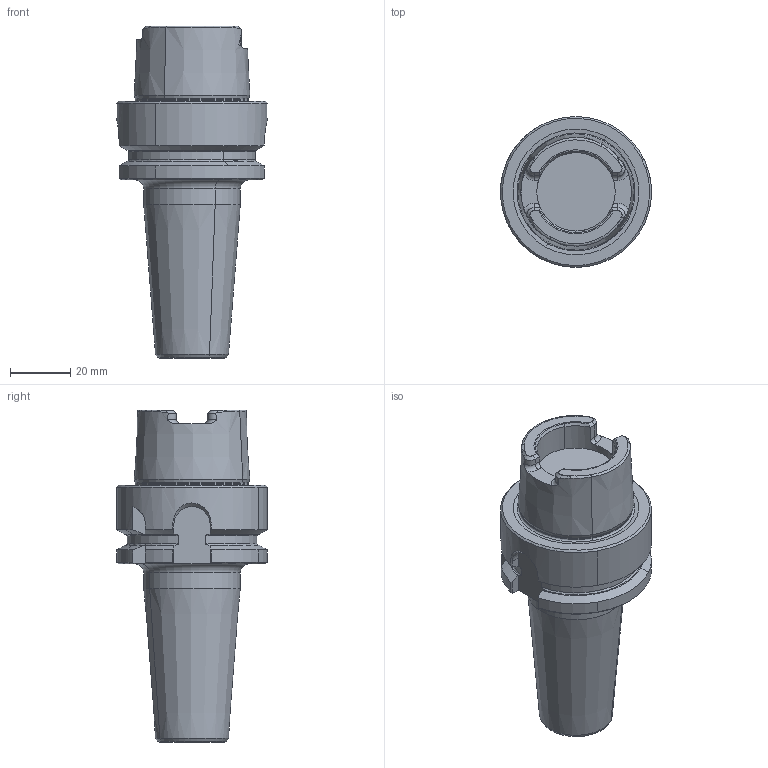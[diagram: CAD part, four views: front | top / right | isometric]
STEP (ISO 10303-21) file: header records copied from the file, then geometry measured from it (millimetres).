
FILE_DESCRIPTION(('CATIA V5 STEP'),'2;1');
FILE_NAME('I:\isr\design\admin8\users\edward_s\4590412_L.stp','2012-05-24T11:15:04+00:00',('none'),('none'),'CATIA Version 5 Release 19 SP 7 (IN-10)','CATIA V5 STEP AP214','none');
FILE_SCHEMA(('AUTOMOTIVE_DESIGN { 1 0 10303 214 1 1 1 1 }'));
Length unit declared in the file: millimetre
Products named in the file (1): 60967329_0 Holder-Tool HSK A 50 SRKIN 10X85
Bounding box: 50 x 50 x 110 mm (x, y, z)
Volume: 106236.6 mm3; surface area: 16729.2 mm2
Topology: 1 solids, 1 shells, 148 faces, 383 edges, 240 vertices
Faces by surface type: plane 51, cone 37, cylinder 32, torus 28
Entity records: 4608 total; most frequent: CARTESIAN_POINT 1418, ORIENTED_EDGE 766, DIRECTION 470, EDGE_CURVE 383, AXIS2_PLACEMENT_3D 244, VERTEX_POINT 240, CIRCLE 157, EDGE_LOOP 151
